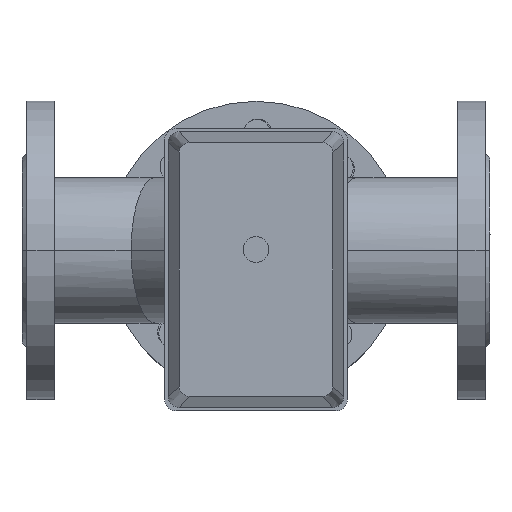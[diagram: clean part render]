
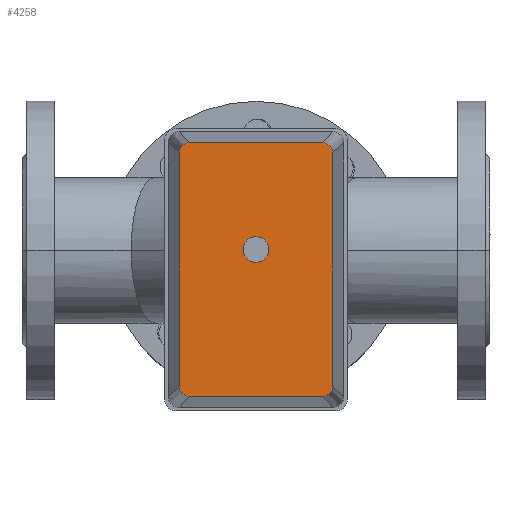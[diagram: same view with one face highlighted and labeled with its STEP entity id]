
A CAD part, top view. The second image highlights one B-rep face of the part: STEP entity #4258.
In plain terms, the highlighted planar face has unit normal (0, 0, 1).
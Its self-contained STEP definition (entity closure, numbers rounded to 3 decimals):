
#342=LINE('',#7273,#577);
#343=LINE('',#7277,#578);
#344=LINE('',#7281,#579);
#345=LINE('',#7285,#580);
#577=VECTOR('',#5992,304.8);
#578=VECTOR('',#5995,304.8);
#579=VECTOR('',#5998,304.8);
#580=VECTOR('',#6001,304.8);
#1055=FACE_OUTER_BOUND('',#1370,.T.);
#1370=EDGE_LOOP('',(#3498,#3499,#3500,#3501,#3502,#3503,#3504,#3505));
#1681=CIRCLE('',#4785,6.);
#1682=CIRCLE('',#4786,6.);
#1683=CIRCLE('',#4787,6.);
#1684=CIRCLE('',#4788,6.);
#2027=VERTEX_POINT('',#7271);
#2028=VERTEX_POINT('',#7272);
#2029=VERTEX_POINT('',#7274);
#2030=VERTEX_POINT('',#7276);
#2031=VERTEX_POINT('',#7278);
#2032=VERTEX_POINT('',#7280);
#2033=VERTEX_POINT('',#7282);
#2034=VERTEX_POINT('',#7284);
#2532=EDGE_CURVE('',#2027,#2028,#342,.T.);
#2533=EDGE_CURVE('',#2028,#2029,#1681,.T.);
#2534=EDGE_CURVE('',#2029,#2030,#343,.T.);
#2535=EDGE_CURVE('',#2030,#2031,#1682,.T.);
#2536=EDGE_CURVE('',#2031,#2032,#344,.T.);
#2537=EDGE_CURVE('',#2032,#2033,#1683,.T.);
#2538=EDGE_CURVE('',#2033,#2034,#345,.T.);
#2539=EDGE_CURVE('',#2034,#2027,#1684,.T.);
#3498=ORIENTED_EDGE('',*,*,#2532,.T.);
#3499=ORIENTED_EDGE('',*,*,#2533,.T.);
#3500=ORIENTED_EDGE('',*,*,#2534,.T.);
#3501=ORIENTED_EDGE('',*,*,#2535,.T.);
#3502=ORIENTED_EDGE('',*,*,#2536,.T.);
#3503=ORIENTED_EDGE('',*,*,#2537,.T.);
#3504=ORIENTED_EDGE('',*,*,#2538,.T.);
#3505=ORIENTED_EDGE('',*,*,#2539,.T.);
#3812=PLANE('',#4784);
#4258=ADVANCED_FACE('',(#1055),#3812,.T.);
#4784=AXIS2_PLACEMENT_3D('',#7270,#5990,#5991);
#4785=AXIS2_PLACEMENT_3D('',#7275,#5993,#5994);
#4786=AXIS2_PLACEMENT_3D('',#7279,#5996,#5997);
#4787=AXIS2_PLACEMENT_3D('',#7283,#5999,#6000);
#4788=AXIS2_PLACEMENT_3D('',#7286,#6002,#6003);
#5990=DIRECTION('center_axis',(0.,0.,1.));
#5991=DIRECTION('ref_axis',(0.,-1.,0.));
#5992=DIRECTION('',(0.,-1.,0.));
#5993=DIRECTION('center_axis',(0.,0.,1.));
#5994=DIRECTION('ref_axis',(1.,0.,0.));
#5995=DIRECTION('',(1.,0.,0.));
#5996=DIRECTION('center_axis',(0.,0.,1.));
#5997=DIRECTION('ref_axis',(1.,0.,0.));
#5998=DIRECTION('',(0.,1.,0.));
#5999=DIRECTION('center_axis',(0.,0.,1.));
#6000=DIRECTION('ref_axis',(1.,0.,0.));
#6001=DIRECTION('',(-1.,0.,0.));
#6002=DIRECTION('center_axis',(0.,0.,1.));
#6003=DIRECTION('ref_axis',(1.,0.,0.));
#7270=CARTESIAN_POINT('Origin',(-12.5,0.002,249.));
#7271=CARTESIAN_POINT('',(-91.,41.502,249.));
#7272=CARTESIAN_POINT('',(-91.,-41.498,249.));
#7273=CARTESIAN_POINT('',(-91.,-41.498,249.));
#7274=CARTESIAN_POINT('',(-85.,-47.498,249.));
#7275=CARTESIAN_POINT('Origin',(-85.,-41.498,249.));
#7276=CARTESIAN_POINT('',(60.,-47.498,249.));
#7277=CARTESIAN_POINT('',(60.,-47.498,249.));
#7278=CARTESIAN_POINT('',(66.,-41.498,249.));
#7279=CARTESIAN_POINT('Origin',(60.,-41.498,249.));
#7280=CARTESIAN_POINT('',(66.,41.502,249.));
#7281=CARTESIAN_POINT('',(66.,41.502,249.));
#7282=CARTESIAN_POINT('',(60.,47.502,249.));
#7283=CARTESIAN_POINT('Origin',(60.,41.502,249.));
#7284=CARTESIAN_POINT('',(-85.,47.502,249.));
#7285=CARTESIAN_POINT('',(-85.,47.502,249.));
#7286=CARTESIAN_POINT('Origin',(-85.,41.502,249.));
